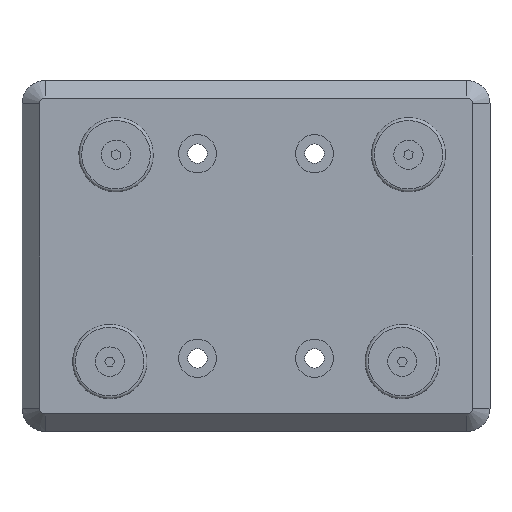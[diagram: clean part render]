
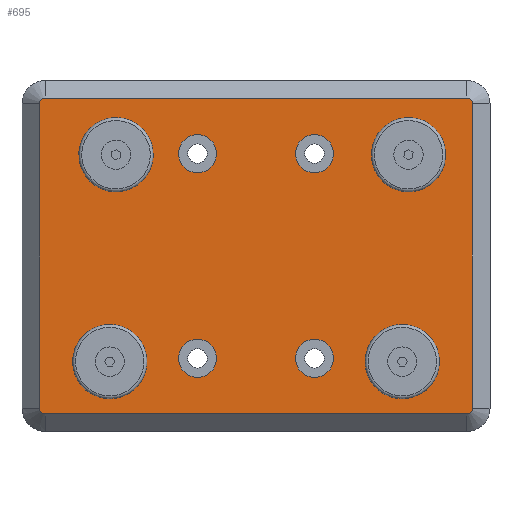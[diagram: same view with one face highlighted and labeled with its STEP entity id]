
A CAD part, front view. The second image highlights one B-rep face of the part: STEP entity #695.
In plain terms, the highlighted planar face has unit normal (0, -1, 0).
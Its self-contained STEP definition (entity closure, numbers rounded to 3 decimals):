
#695=ADVANCED_FACE('',(#1028,#1029,#1030,#1031,#1032,#1033,#1034,#1035,#1036),#1037,.F.);
#1028=FACE_BOUND('',#1676,.T.);
#1029=FACE_BOUND('',#1677,.T.);
#1030=FACE_BOUND('',#1678,.T.);
#1031=FACE_BOUND('',#1679,.T.);
#1032=FACE_OUTER_BOUND('',#1680,.T.);
#1033=FACE_BOUND('',#1681,.T.);
#1034=FACE_BOUND('',#1682,.T.);
#1035=FACE_BOUND('',#1683,.T.);
#1036=FACE_BOUND('',#1684,.T.);
#1037=PLANE('',#1685);
#1676=EDGE_LOOP('',(#2504));
#1677=EDGE_LOOP('',(#2505));
#1678=EDGE_LOOP('',(#2506));
#1679=EDGE_LOOP('',(#2507));
#1680=EDGE_LOOP('',(#2508,#2509,#2510,#2511,#2512,#2513,#2514,#2515));
#1681=EDGE_LOOP('',(#2516));
#1682=EDGE_LOOP('',(#2517));
#1683=EDGE_LOOP('',(#2518));
#1684=EDGE_LOOP('',(#2519));
#1685=AXIS2_PLACEMENT_3D('',#2520,#2521,#2522);
#2504=ORIENTED_EDGE('',*,*,#4067,.T.);
#2505=ORIENTED_EDGE('',*,*,#4064,.T.);
#2506=ORIENTED_EDGE('',*,*,#4061,.T.);
#2507=ORIENTED_EDGE('',*,*,#4058,.T.);
#2508=ORIENTED_EDGE('',*,*,#4031,.T.);
#2509=ORIENTED_EDGE('',*,*,#4028,.T.);
#2510=ORIENTED_EDGE('',*,*,#4033,.T.);
#2511=ORIENTED_EDGE('',*,*,#4037,.T.);
#2512=ORIENTED_EDGE('',*,*,#4041,.T.);
#2513=ORIENTED_EDGE('',*,*,#4042,.T.);
#2514=ORIENTED_EDGE('',*,*,#4039,.T.);
#2515=ORIENTED_EDGE('',*,*,#4035,.T.);
#2516=ORIENTED_EDGE('',*,*,#4068,.F.);
#2517=ORIENTED_EDGE('',*,*,#4069,.F.);
#2518=ORIENTED_EDGE('',*,*,#4070,.F.);
#2519=ORIENTED_EDGE('',*,*,#4071,.F.);
#2520=CARTESIAN_POINT('',(36.0,-8.0,26.0));
#2521=DIRECTION('',(0.,1.0,0.));
#2522=DIRECTION('',(1.0,0.,0.));
#4028=EDGE_CURVE('',#4558,#4556,#4559,.F.);
#4031=EDGE_CURVE('',#4561,#4558,#4563,.T.);
#4033=EDGE_CURVE('',#4556,#4564,#4566,.T.);
#4035=EDGE_CURVE('',#4567,#4561,#4569,.F.);
#4037=EDGE_CURVE('',#4564,#4570,#4572,.F.);
#4039=EDGE_CURVE('',#4573,#4567,#4575,.T.);
#4041=EDGE_CURVE('',#4570,#4576,#4578,.T.);
#4042=EDGE_CURVE('',#4576,#4573,#4579,.F.);
#4058=EDGE_CURVE('',#4598,#4598,#4599,.T.);
#4061=EDGE_CURVE('',#4604,#4604,#4605,.T.);
#4064=EDGE_CURVE('',#4610,#4610,#4611,.T.);
#4067=EDGE_CURVE('',#4616,#4616,#4617,.T.);
#4068=EDGE_CURVE('',#4618,#4618,#4619,.T.);
#4069=EDGE_CURVE('',#4620,#4620,#4621,.T.);
#4070=EDGE_CURVE('',#4622,#4622,#4623,.T.);
#4071=EDGE_CURVE('',#4624,#4624,#4625,.T.);
#4556=VERTEX_POINT('',#5406);
#4558=VERTEX_POINT('',#5409);
#4559=CIRCLE('',#5410,1.0);
#4561=VERTEX_POINT('',#5413);
#4563=LINE('',#5416,#5417);
#4564=VERTEX_POINT('',#5418);
#4566=LINE('',#5421,#5422);
#4567=VERTEX_POINT('',#5423);
#4569=CIRCLE('',#5426,1.0);
#4570=VERTEX_POINT('',#5427);
#4572=CIRCLE('',#5430,1.0);
#4573=VERTEX_POINT('',#5431);
#4575=LINE('',#5434,#5435);
#4576=VERTEX_POINT('',#5436);
#4578=LINE('',#5439,#5440);
#4579=CIRCLE('',#5441,1.0);
#4598=VERTEX_POINT('',#5472);
#4599=CIRCLE('',#5473,3.25);
#4604=VERTEX_POINT('',#5478);
#4605=CIRCLE('',#5479,3.25);
#4610=VERTEX_POINT('',#5484);
#4611=CIRCLE('',#5485,3.25);
#4616=VERTEX_POINT('',#5490);
#4617=CIRCLE('',#5491,3.25);
#4618=VERTEX_POINT('',#5492);
#4619=CIRCLE('',#5493,2.0);
#4620=VERTEX_POINT('',#5494);
#4621=CIRCLE('',#5495,2.0);
#4622=VERTEX_POINT('',#5496);
#4623=CIRCLE('',#5497,2.0);
#4624=VERTEX_POINT('',#5498);
#4625=CIRCLE('',#5499,2.0);
#5406=CARTESIAN_POINT('',(36.0,-8.0,27.0));
#5409=CARTESIAN_POINT('',(37.0,-8.0,26.0));
#5410=AXIS2_PLACEMENT_3D('',#6842,#6843,#6844);
#5413=CARTESIAN_POINT('',(37.0,-8.0,-26.0));
#5416=CARTESIAN_POINT('',(37.0,-8.0,26.0));
#5417=VECTOR('',#6847,1.0);
#5418=CARTESIAN_POINT('',(-36.0,-8.0,27.));
#5421=CARTESIAN_POINT('',(-36.0,-8.0,27.0));
#5422=VECTOR('',#6849,1.0);
#5423=CARTESIAN_POINT('',(36.0,-8.0,-27.0));
#5426=AXIS2_PLACEMENT_3D('',#6851,#6852,#6853);
#5427=CARTESIAN_POINT('',(-37.0,-8.0,26.));
#5430=AXIS2_PLACEMENT_3D('',#6855,#6856,#6857);
#5431=CARTESIAN_POINT('',(-36.0,-8.0,-27.0));
#5434=CARTESIAN_POINT('',(36.0,-8.0,-27.0));
#5435=VECTOR('',#6859,1.0);
#5436=CARTESIAN_POINT('',(-37.0,-8.0,-26.));
#5439=CARTESIAN_POINT('',(-37.0,-8.0,-26.));
#5440=VECTOR('',#6861,1.0);
#5441=AXIS2_PLACEMENT_3D('',#6862,#6863,#6864);
#5472=CARTESIAN_POINT('',(10.,-8.0,20.75));
#5473=AXIS2_PLACEMENT_3D('',#6886,#6887,#6888);
#5478=CARTESIAN_POINT('',(-10.,-8.0,20.75));
#5479=AXIS2_PLACEMENT_3D('',#6895,#6896,#6897);
#5484=CARTESIAN_POINT('',(-10.,-8.0,-14.25));
#5485=AXIS2_PLACEMENT_3D('',#6904,#6905,#6906);
#5490=CARTESIAN_POINT('',(10.,-8.0,-14.25));
#5491=AXIS2_PLACEMENT_3D('',#6913,#6914,#6915);
#5492=CARTESIAN_POINT('',(25.0,-8.0,16.055));
#5493=AXIS2_PLACEMENT_3D('',#6916,#6917,#6918);
#5494=CARTESIAN_POINT('',(-25.0,-8.0,-20.055));
#5495=AXIS2_PLACEMENT_3D('',#6919,#6920,#6921);
#5496=CARTESIAN_POINT('',(25.0,-8.0,-20.055));
#5497=AXIS2_PLACEMENT_3D('',#6922,#6923,#6924);
#5498=CARTESIAN_POINT('',(-25.0,-8.0,16.055));
#5499=AXIS2_PLACEMENT_3D('',#6925,#6926,#6927);
#6842=CARTESIAN_POINT('',(36.0,-8.0,26.0));
#6843=DIRECTION('',(0.,1.0,0.));
#6844=DIRECTION('',(0.,0.,1.0));
#6847=DIRECTION('',(0.,0.,1.0));
#6849=DIRECTION('',(-1.0,0.0,0.));
#6851=CARTESIAN_POINT('',(36.0,-8.0,-26.0));
#6852=DIRECTION('',(0.,1.0,0.));
#6853=DIRECTION('',(0.,0.,1.0));
#6855=CARTESIAN_POINT('',(-36.0,-8.0,26.));
#6856=DIRECTION('',(0.,1.0,0.));
#6857=DIRECTION('',(0.,0.,1.0));
#6859=DIRECTION('',(1.0,0.0,0.));
#6861=DIRECTION('',(0.,0.,-1.0));
#6862=CARTESIAN_POINT('',(-36.0,-8.0,-26.));
#6863=DIRECTION('',(0.,1.0,0.));
#6864=DIRECTION('',(0.,0.,1.0));
#6886=CARTESIAN_POINT('',(10.,-8.0,17.5));
#6887=DIRECTION('',(0.,1.0,0.));
#6888=DIRECTION('',(0.,0.,1.0));
#6895=CARTESIAN_POINT('',(-10.,-8.0,17.5));
#6896=DIRECTION('',(0.,1.0,0.));
#6897=DIRECTION('',(0.,0.,1.0));
#6904=CARTESIAN_POINT('',(-10.,-8.0,-17.5));
#6905=DIRECTION('',(0.,1.0,0.));
#6906=DIRECTION('',(0.,0.,1.0));
#6913=CARTESIAN_POINT('',(10.,-8.0,-17.5));
#6914=DIRECTION('',(0.,1.0,0.));
#6915=DIRECTION('',(0.,0.,1.0));
#6916=CARTESIAN_POINT('',(25.0,-8.0,18.055));
#6917=DIRECTION('',(0.,-1.0,0.));
#6918=DIRECTION('',(0.,0.,-1.0));
#6919=CARTESIAN_POINT('',(-25.0,-8.0,-18.055));
#6920=DIRECTION('',(0.,-1.0,0.));
#6921=DIRECTION('',(0.,0.,-1.0));
#6922=CARTESIAN_POINT('',(25.0,-8.0,-18.055));
#6923=DIRECTION('',(0.,-1.0,0.));
#6924=DIRECTION('',(0.,0.,-1.0));
#6925=CARTESIAN_POINT('',(-25.0,-8.0,18.055));
#6926=DIRECTION('',(0.,-1.0,0.));
#6927=DIRECTION('',(0.,0.,-1.0));
